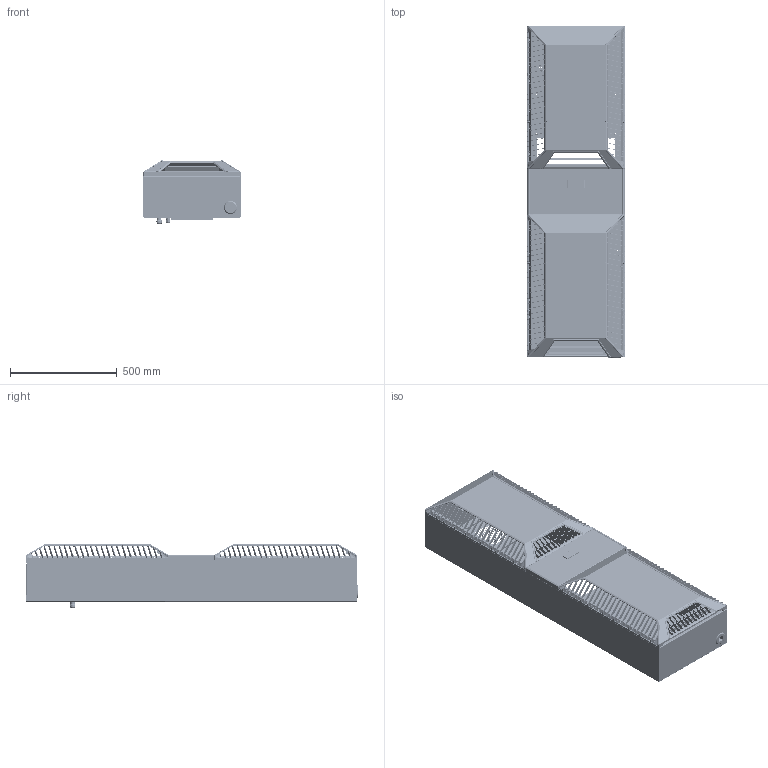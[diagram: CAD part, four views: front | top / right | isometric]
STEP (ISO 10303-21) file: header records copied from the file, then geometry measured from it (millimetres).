
FILE_DESCRIPTION((''),'2;1');
FILE_NAME('KG-8540_COMPLETE_ASM_1_ASM','2019-10-10T16:53:53',('briang'),(''),'CREO PARAMETRIC BY PTC INC, 2018500','CREO PARAMETRIC BY PTC INC, 2018500','');
FILE_SCHEMA(('CONFIG_CONTROL_DESIGN'));
Products named in the file (34): KG-8540_CABINET_1; KG-8540_CABINET-MNF_ASM_1_ASM; KG-8540_BASE_1; KG-8540_BASE_ASM_1_ASM; KG-8540_BOTTOM_STRUT_1; POPNUT_M8_HEX_CLOSED_HEAD1-5_ST; POPNUT_M6_HEX_CL_WITH_LIP_1_5MM; KG-8540_SUPPLY_PLATE_1; CABLE_GLAND_M16_1; CABLE_GLAND_M20_METAL_1; KG-8525-MOUNTING-BRACKET_1; KG-8540_CABINET_ASM_1_ASM; CAREL_IR33PLUS_SEIFERT_1; CAREL_IR33_PLUS_SEIFERT_ASM_1_ASM; KG-8540_CONTROLLER_ASM_1_ASM; KG-8540_INT_ACCESS_PANEL_1; KG-8540_INT_ACCESS_PANEL-MNF_AS_ASM; KG-8540_INT_ACCESS_PANEL_ASM_1_ASM; NG4-GRID-SIDE_1; NG4-GRID-SIDE-MIDDLE_1; NG4-GRID-SIDE-BOTTOM_1; NG4-GRID-SIDE-RIGHT_1; NG4-GRID-MID-RIGHT_1; NG4-GRID-SIDE-BTM-RIGHT_1; NG4-GRID-ASSEMBLY_ASM_1_ASM; KG8540_COVER_1; NG4-FRONT-GRID_1; KG8540_COVER_ASM_1_ASM; KG8540_COVER-BOTTOM_1; KG8540_COVER-BOTTOM_ASM_1_ASM; NG2_4-SIDE-STRIP_1; KG-8540_MID-COVER_1; KG-8540_MID-COVER_ASM_1_ASM; KG-8540_COMPLETE_ASM_1_ASM
Assembly tree (57 placements, depth 4):
  KG-8540_COMPLETE_ASM_1_ASM
    KG-8540_CABINET_ASM_1_ASM
      KG-8540_CABINET-MNF_ASM_1_ASM
        KG-8540_CABINET_1
      KG-8540_BASE_ASM_1_ASM
        KG-8540_BASE_1
      KG-8540_BOTTOM_STRUT_1
      POPNUT_M8_HEX_CLOSED_HEAD1-5_ST
      POPNUT_M6_HEX_CL_WITH_LIP_1_5MM  x21
      KG-8540_SUPPLY_PLATE_1
      CABLE_GLAND_M16_1
      CABLE_GLAND_M20_METAL_1
      KG-8525-MOUNTING-BRACKET_1  x2
    KG-8540_CONTROLLER_ASM_1_ASM
      CAREL_IR33_PLUS_SEIFERT_ASM_1_ASM
        CAREL_IR33PLUS_SEIFERT_1
    KG-8540_INT_ACCESS_PANEL_ASM_1_ASM
      KG-8540_INT_ACCESS_PANEL-MNF_AS_ASM
        KG-8540_INT_ACCESS_PANEL_1
    KG8540_COVER_ASM_1_ASM
      NG4-GRID-ASSEMBLY_ASM_1_ASM
        NG4-GRID-SIDE_1
        NG4-GRID-SIDE-MIDDLE_1
        NG4-GRID-SIDE-BOTTOM_1
        NG4-GRID-SIDE-RIGHT_1
        NG4-GRID-MID-RIGHT_1
        NG4-GRID-SIDE-BTM-RIGHT_1
      KG8540_COVER_1
      NG4-FRONT-GRID_1
    KG8540_COVER-BOTTOM_ASM_1_ASM
      NG4-GRID-ASSEMBLY_ASM_1_ASM
        NG4-GRID-SIDE_1
        NG4-GRID-SIDE-MIDDLE_1
        NG4-GRID-SIDE-BOTTOM_1
        NG4-GRID-SIDE-RIGHT_1
        NG4-GRID-MID-RIGHT_1
        NG4-GRID-SIDE-BTM-RIGHT_1
      KG8540_COVER-BOTTOM_1
      NG4-FRONT-GRID_1
    KG-8540_MID-COVER_ASM_1_ASM
      NG2_4-SIDE-STRIP_1  x2
      KG-8540_MID-COVER_1
Bounding box: 455 x 1554 x 297.73 mm (x, y, z)
Volume: 3385285.3 mm3; surface area: 5393791.5 mm2
Topology: 51 solids, 75 shells, 11820 faces, 34540 edges, 22391 vertices
Faces by surface type: plane 8664, cylinder 2528, cone 330, bspline 200, torus 48, sphere 48, extrusion 2
Entity records: 228307 total; most frequent: CARTESIAN_POINT 49077, ORIENTED_EDGE 38982, DIRECTION 34565, EDGE_CURVE 19493, VECTOR 15199, LINE 15197, VERTEX_POINT 12680, AXIS2_PLACEMENT_3D 9683
